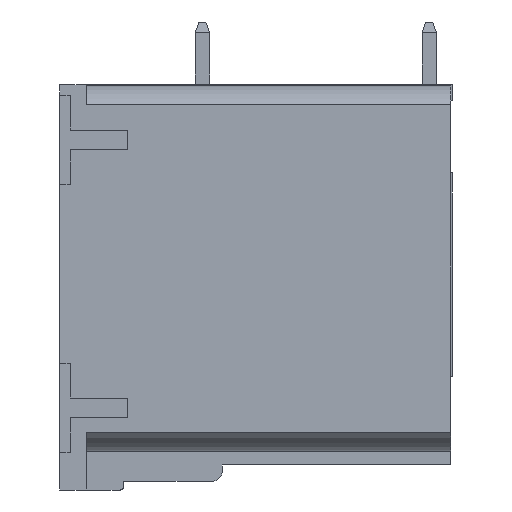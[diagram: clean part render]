
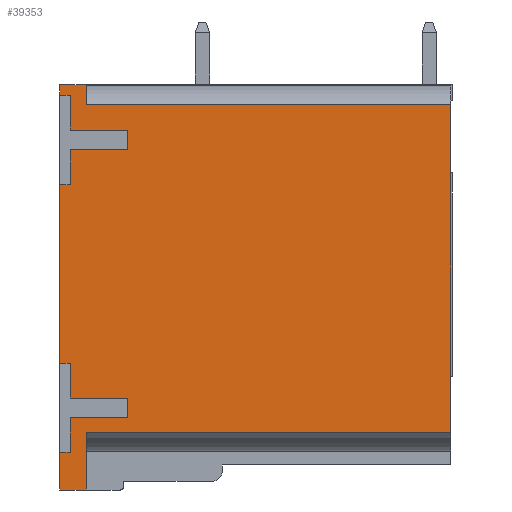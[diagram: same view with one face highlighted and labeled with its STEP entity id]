
A CAD part, left-side view. The second image highlights one B-rep face of the part: STEP entity #39353.
In plain terms, the highlighted planar face has unit normal (-1, 0, 0).
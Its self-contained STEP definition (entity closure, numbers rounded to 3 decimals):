
#16797=DIRECTION('',(0.,0.,-1.));
#16798=VECTOR('',#16797,2.1);
#16799=CARTESIAN_POINT('',(2.805,21.9,-20.6));
#16800=LINE('',#16799,#16798);
#16801=DIRECTION('',(0.,0.,-1.));
#16802=VECTOR('',#16801,10.);
#16803=CARTESIAN_POINT('',(2.805,21.9,-5.6));
#16804=LINE('',#16803,#16802);
#16805=DIRECTION('',(0.,0.,-1.));
#16806=VECTOR('',#16805,0.6);
#16807=CARTESIAN_POINT('',(2.805,21.9,0.));
#16808=LINE('',#16807,#16806);
#16809=DIRECTION('',(0.,1.,0.));
#16810=VECTOR('',#16809,1.5);
#16811=CARTESIAN_POINT('',(2.805,20.4,0.));
#16812=LINE('',#16811,#16810);
#16813=DIRECTION('',(0.,0.,1.));
#16814=VECTOR('',#16813,18.34);
#16815=CARTESIAN_POINT('',(2.805,0.,-19.47));
#16816=LINE('',#16815,#16814);
#16817=DIRECTION('',(0.,1.,0.));
#16818=VECTOR('',#16817,20.4);
#16819=CARTESIAN_POINT('',(2.805,0.,-19.47));
#16820=LINE('',#16819,#16818);
#16923=DIRECTION('',(0.,1.,0.));
#16924=VECTOR('',#16923,1.5);
#16925=CARTESIAN_POINT('',(2.805,20.4,-22.7));
#16926=LINE('',#16925,#16924);
#16951=DIRECTION('',(0.,0.,-1.));
#16952=VECTOR('',#16951,3.23);
#16953=CARTESIAN_POINT('',(2.805,20.4,-19.47));
#16954=LINE('',#16953,#16952);
#17260=DIRECTION('',(0.,-1.,0.));
#17261=VECTOR('',#17260,0.6);
#17262=CARTESIAN_POINT('',(2.805,21.9,-20.6));
#17263=LINE('',#17262,#17261);
#17272=DIRECTION('',(0.,0.,1.));
#17273=VECTOR('',#17272,1.95);
#17274=CARTESIAN_POINT('',(2.805,21.3,-20.6));
#17275=LINE('',#17274,#17273);
#17288=DIRECTION('',(0.,-1.,0.));
#17289=VECTOR('',#17288,3.2);
#17290=CARTESIAN_POINT('',(2.805,21.3,-18.65));
#17291=LINE('',#17290,#17289);
#17300=DIRECTION('',(0.,0.,1.));
#17301=VECTOR('',#17300,1.1);
#17302=CARTESIAN_POINT('',(2.805,18.1,-18.65));
#17303=LINE('',#17302,#17301);
#17312=DIRECTION('',(0.,1.,0.));
#17313=VECTOR('',#17312,3.2);
#17314=CARTESIAN_POINT('',(2.805,18.1,-17.55));
#17315=LINE('',#17314,#17313);
#17324=DIRECTION('',(0.,0.,1.));
#17325=VECTOR('',#17324,1.95);
#17326=CARTESIAN_POINT('',(2.805,21.3,-17.55));
#17327=LINE('',#17326,#17325);
#17336=DIRECTION('',(0.,1.,0.));
#17337=VECTOR('',#17336,0.6);
#17338=CARTESIAN_POINT('',(2.805,21.3,-15.6));
#17339=LINE('',#17338,#17337);
#17352=DIRECTION('',(0.,-1.,0.));
#17353=VECTOR('',#17352,0.6);
#17354=CARTESIAN_POINT('',(2.805,21.9,-5.6));
#17355=LINE('',#17354,#17353);
#17364=DIRECTION('',(0.,0.,1.));
#17365=VECTOR('',#17364,1.95);
#17366=CARTESIAN_POINT('',(2.805,21.3,-5.6));
#17367=LINE('',#17366,#17365);
#17380=DIRECTION('',(0.,-1.,0.));
#17381=VECTOR('',#17380,3.2);
#17382=CARTESIAN_POINT('',(2.805,21.3,-3.65));
#17383=LINE('',#17382,#17381);
#17392=DIRECTION('',(0.,0.,1.));
#17393=VECTOR('',#17392,1.1);
#17394=CARTESIAN_POINT('',(2.805,18.1,-3.65));
#17395=LINE('',#17394,#17393);
#17404=DIRECTION('',(0.,1.,0.));
#17405=VECTOR('',#17404,3.2);
#17406=CARTESIAN_POINT('',(2.805,18.1,-2.55));
#17407=LINE('',#17406,#17405);
#17416=DIRECTION('',(0.,0.,1.));
#17417=VECTOR('',#17416,1.95);
#17418=CARTESIAN_POINT('',(2.805,21.3,-2.55));
#17419=LINE('',#17418,#17417);
#17428=DIRECTION('',(0.,1.,0.));
#17429=VECTOR('',#17428,0.6);
#17430=CARTESIAN_POINT('',(2.805,21.3,-0.6));
#17431=LINE('',#17430,#17429);
#17444=DIRECTION('',(0.,0.,-1.));
#17445=VECTOR('',#17444,1.13);
#17446=CARTESIAN_POINT('',(2.805,20.4,0.));
#17447=LINE('',#17446,#17445);
#17493=DIRECTION('',(0.,-1.,0.));
#17494=VECTOR('',#17493,20.4);
#17495=CARTESIAN_POINT('',(2.805,20.4,-1.13));
#17496=LINE('',#17495,#17494);
#22103=CARTESIAN_POINT('',(2.805,0.,-19.47));
#22104=VERTEX_POINT('',#22103);
#22105=CARTESIAN_POINT('',(2.805,0.,-1.13));
#22106=VERTEX_POINT('',#22105);
#22227=CARTESIAN_POINT('',(2.805,20.4,0.));
#22228=VERTEX_POINT('',#22227);
#22229=CARTESIAN_POINT('',(2.805,21.9,0.));
#22230=VERTEX_POINT('',#22229);
#22331=CARTESIAN_POINT('',(2.805,21.9,-0.6));
#22332=VERTEX_POINT('',#22331);
#22337=CARTESIAN_POINT('',(2.805,21.9,-5.6));
#22338=VERTEX_POINT('',#22337);
#22339=CARTESIAN_POINT('',(2.805,21.9,-15.6));
#22340=VERTEX_POINT('',#22339);
#22345=CARTESIAN_POINT('',(2.805,21.9,-20.6));
#22346=VERTEX_POINT('',#22345);
#22347=CARTESIAN_POINT('',(2.805,21.9,-22.7));
#22348=VERTEX_POINT('',#22347);
#22389=CARTESIAN_POINT('',(2.805,20.4,-19.47));
#22390=CARTESIAN_POINT('',(2.805,20.4,-22.7));
#22391=VERTEX_POINT('',#22389);
#22392=VERTEX_POINT('',#22390);
#22393=CARTESIAN_POINT('',(2.805,21.3,-20.6));
#22394=VERTEX_POINT('',#22393);
#22395=CARTESIAN_POINT('',(2.805,21.3,-18.65));
#22396=VERTEX_POINT('',#22395);
#22397=CARTESIAN_POINT('',(2.805,18.1,-18.65));
#22398=VERTEX_POINT('',#22397);
#22399=CARTESIAN_POINT('',(2.805,18.1,-17.55));
#22400=VERTEX_POINT('',#22399);
#22401=CARTESIAN_POINT('',(2.805,21.3,-17.55));
#22402=VERTEX_POINT('',#22401);
#22403=CARTESIAN_POINT('',(2.805,21.3,-15.6));
#22404=VERTEX_POINT('',#22403);
#22405=CARTESIAN_POINT('',(2.805,21.3,-5.6));
#22406=VERTEX_POINT('',#22405);
#22407=CARTESIAN_POINT('',(2.805,21.3,-3.65));
#22408=VERTEX_POINT('',#22407);
#22409=CARTESIAN_POINT('',(2.805,18.1,-3.65));
#22410=VERTEX_POINT('',#22409);
#22411=CARTESIAN_POINT('',(2.805,18.1,-2.55));
#22412=VERTEX_POINT('',#22411);
#22413=CARTESIAN_POINT('',(2.805,21.3,-2.55));
#22414=VERTEX_POINT('',#22413);
#22415=CARTESIAN_POINT('',(2.805,21.3,-0.6));
#22416=VERTEX_POINT('',#22415);
#22417=CARTESIAN_POINT('',(2.805,20.4,-1.13));
#22418=VERTEX_POINT('',#22417);
#39303=CARTESIAN_POINT('',(2.805,0.,-22.7));
#39304=DIRECTION('',(-1.,0.,0.));
#39305=DIRECTION('',(0.,0.,1.));
#39306=AXIS2_PLACEMENT_3D('',#39303,#39304,#39305);
#39307=PLANE('',#39306);
#39309=ORIENTED_EDGE('',*,*,#39308,.T.);
#39311=ORIENTED_EDGE('',*,*,#39310,.T.);
#39313=ORIENTED_EDGE('',*,*,#39312,.T.);
#39314=ORIENTED_EDGE('',*,*,#26263,.F.);
#39316=ORIENTED_EDGE('',*,*,#39315,.T.);
#39318=ORIENTED_EDGE('',*,*,#39317,.T.);
#39320=ORIENTED_EDGE('',*,*,#39319,.T.);
#39322=ORIENTED_EDGE('',*,*,#39321,.T.);
#39324=ORIENTED_EDGE('',*,*,#39323,.T.);
#39326=ORIENTED_EDGE('',*,*,#39325,.T.);
#39328=ORIENTED_EDGE('',*,*,#39327,.T.);
#39329=ORIENTED_EDGE('',*,*,#26255,.F.);
#39331=ORIENTED_EDGE('',*,*,#39330,.T.);
#39333=ORIENTED_EDGE('',*,*,#39332,.T.);
#39335=ORIENTED_EDGE('',*,*,#39334,.T.);
#39337=ORIENTED_EDGE('',*,*,#39336,.T.);
#39339=ORIENTED_EDGE('',*,*,#39338,.T.);
#39341=ORIENTED_EDGE('',*,*,#39340,.T.);
#39343=ORIENTED_EDGE('',*,*,#39342,.T.);
#39344=ORIENTED_EDGE('',*,*,#26247,.F.);
#39345=ORIENTED_EDGE('',*,*,#25004,.F.);
#39347=ORIENTED_EDGE('',*,*,#39346,.T.);
#39349=ORIENTED_EDGE('',*,*,#39348,.T.);
#39350=ORIENTED_EDGE('',*,*,#25947,.F.);
#39351=EDGE_LOOP('',(#39309,#39311,#39313,#39314,#39316,#39318,#39320,#39322,
#39324,#39326,#39328,#39329,#39331,#39333,#39335,#39337,#39339,#39341,#39343,
#39344,#39345,#39347,#39349,#39350));
#39352=FACE_OUTER_BOUND('',#39351,.F.);
#39353=ADVANCED_FACE('',(#39352),#39307,.T.);
#25004=EDGE_CURVE('',#22228,#22230,#16812,.T.);
#25947=EDGE_CURVE('',#22104,#22106,#16816,.T.);
#26247=EDGE_CURVE('',#22230,#22332,#16808,.T.);
#26255=EDGE_CURVE('',#22338,#22340,#16804,.T.);
#26263=EDGE_CURVE('',#22346,#22348,#16800,.T.);
#39308=EDGE_CURVE('',#22104,#22391,#16820,.T.);
#39310=EDGE_CURVE('',#22391,#22392,#16954,.T.);
#39312=EDGE_CURVE('',#22392,#22348,#16926,.T.);
#39315=EDGE_CURVE('',#22346,#22394,#17263,.T.);
#39317=EDGE_CURVE('',#22394,#22396,#17275,.T.);
#39319=EDGE_CURVE('',#22396,#22398,#17291,.T.);
#39321=EDGE_CURVE('',#22398,#22400,#17303,.T.);
#39323=EDGE_CURVE('',#22400,#22402,#17315,.T.);
#39325=EDGE_CURVE('',#22402,#22404,#17327,.T.);
#39327=EDGE_CURVE('',#22404,#22340,#17339,.T.);
#39330=EDGE_CURVE('',#22338,#22406,#17355,.T.);
#39332=EDGE_CURVE('',#22406,#22408,#17367,.T.);
#39334=EDGE_CURVE('',#22408,#22410,#17383,.T.);
#39336=EDGE_CURVE('',#22410,#22412,#17395,.T.);
#39338=EDGE_CURVE('',#22412,#22414,#17407,.T.);
#39340=EDGE_CURVE('',#22414,#22416,#17419,.T.);
#39342=EDGE_CURVE('',#22416,#22332,#17431,.T.);
#39346=EDGE_CURVE('',#22228,#22418,#17447,.T.);
#39348=EDGE_CURVE('',#22418,#22106,#17496,.T.);
